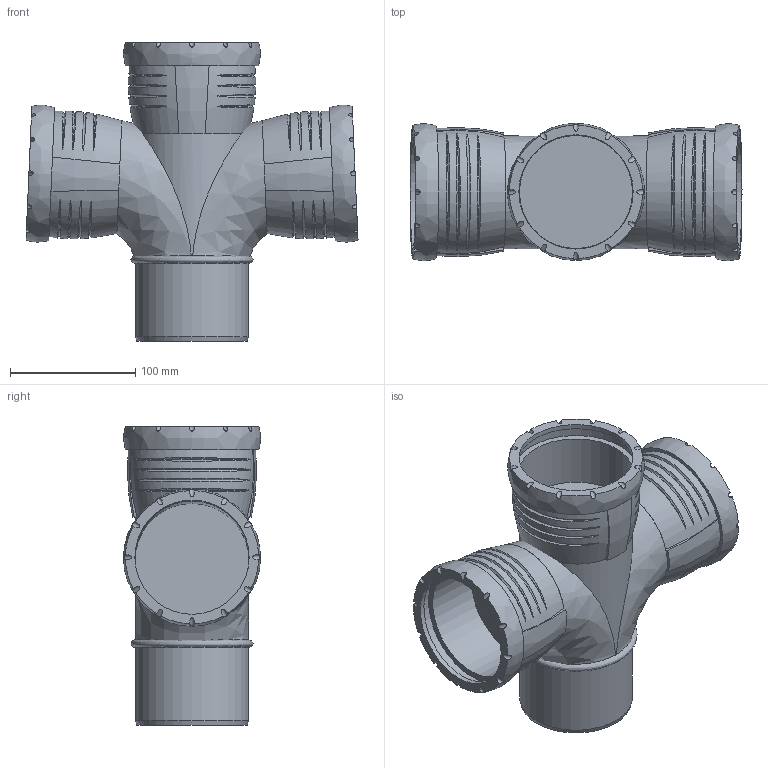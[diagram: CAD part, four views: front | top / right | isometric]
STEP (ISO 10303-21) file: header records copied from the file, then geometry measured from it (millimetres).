
FILE_DESCRIPTION(/* description */ (''),/* implementation_level */ '2;1');
FILE_NAME(/* name */ 'H:\Geberit-Teile\Export\Abzweig PP\stp\393466.stp',/* time_stamp */ '2017-02-13T13:22:55+01:00',/* author */ ('seihe2'),/* organization */ (''),/* preprocessor_version */ 'ST-DEVELOPER v15.2',/* originating_system */ 'Autodesk Inventor 2014',/* authorisation */ '');
FILE_SCHEMA (('AUTOMOTIVE_DESIGN { 1 0 10303 214 3 1 1 }'));
Length unit declared in the file: millimetre
Products named in the file (1): 393466
Bounding box: 264.88 x 109.47 x 237.95 mm (x, y, z)
Volume: 1920447.9 mm3; surface area: 292898.5 mm2
Topology: 6 solids, 6 shells, 152 faces, 354 edges, 251 vertices
Faces by surface type: bspline 72, cylinder 52, plane 27, cone 1
Full cylindrical faces by diameter (mm): 74.497 x3, 81.6 x1, 90.2 x3, 90.9 x3, 91.2 x3, 100.2 x3
Entity records: 11489 total; most frequent: CARTESIAN_POINT 8367, ORIENTED_EDGE 670, DIRECTION 450, EDGE_CURVE 334, VERTEX_POINT 248, AXIS2_PLACEMENT_3D 225, EDGE_LOOP 210, B_SPLINE_CURVE_WITH_KNOTS 187
